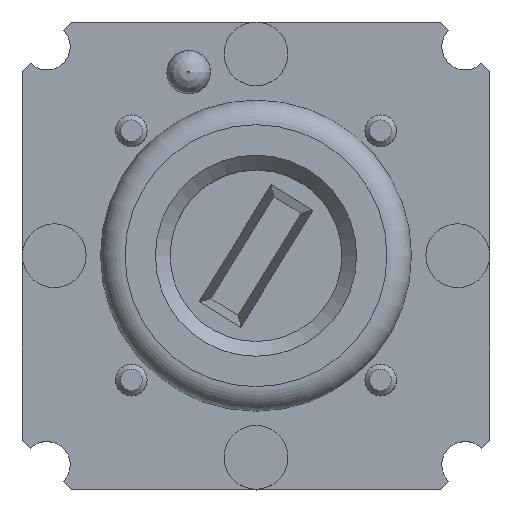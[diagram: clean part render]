
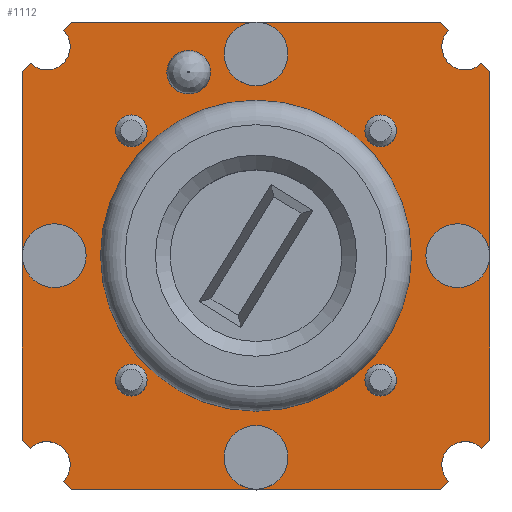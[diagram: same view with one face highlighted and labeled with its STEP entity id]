
A CAD part, top view. The second image highlights one B-rep face of the part: STEP entity #1112.
In plain terms, the highlighted planar face has unit normal (0, 0, 1).
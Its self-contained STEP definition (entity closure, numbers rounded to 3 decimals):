
#178=CIRCLE($,#1178,3.17);
#189=CIRCLE($,#1199,0.32);
#192=CIRCLE($,#1205,0.32);
#195=CIRCLE($,#1211,0.32);
#198=CIRCLE($,#1217,0.32);
#201=CIRCLE($,#1222,0.445);
#203=CIRCLE($,#1226,0.475);
#204=CIRCLE($,#1228,0.475);
#206=CIRCLE($,#1231,0.475);
#208=CIRCLE($,#1238,0.65);
#209=CIRCLE($,#1239,0.65);
#210=CIRCLE($,#1240,0.65);
#211=CIRCLE($,#1241,0.475);
#212=CIRCLE($,#1242,0.65);
#257=FACE_BOUND($,#361,.T.);
#258=FACE_BOUND($,#362,.T.);
#259=FACE_BOUND($,#363,.T.);
#260=FACE_BOUND($,#364,.T.);
#261=FACE_BOUND($,#365,.T.);
#262=FACE_BOUND($,#366,.T.);
#263=FACE_BOUND($,#367,.T.);
#361=EDGE_LOOP($,(#907));
#362=EDGE_LOOP($,(#908));
#363=EDGE_LOOP($,(#909));
#364=EDGE_LOOP($,(#910));
#365=EDGE_LOOP($,(#911));
#366=EDGE_LOOP($,(#912));
#367=EDGE_LOOP($,(#913,#914,#915,#916,#917,#918,#919,#920,#921,#922,#923,
#924,#925,#926,#927,#928,#929,#930,#931,#932,#933,#934,#935,#936));
#430=LINE($,#1830,#498);
#431=LINE($,#1833,#499);
#434=LINE($,#1839,#502);
#437=LINE($,#1845,#505);
#440=LINE($,#1851,#508);
#441=LINE($,#1853,#509);
#442=LINE($,#1855,#510);
#443=LINE($,#1857,#511);
#444=LINE($,#1859,#512);
#445=LINE($,#1861,#513);
#446=LINE($,#1863,#514);
#447=LINE($,#1866,#515);
#448=LINE($,#1868,#516);
#449=LINE($,#1872,#517);
#450=LINE($,#1874,#518);
#451=LINE($,#1876,#519);
#498=VECTOR($,#1494,0.232);
#499=VECTOR($,#1497,0.232);
#502=VECTOR($,#1502,0.232);
#505=VECTOR($,#1507,0.232);
#508=VECTOR($,#1512,3.763);
#509=VECTOR($,#1515,3.763);
#510=VECTOR($,#1516,0.232);
#511=VECTOR($,#1517,3.763);
#512=VECTOR($,#1520,3.763);
#513=VECTOR($,#1521,0.232);
#514=VECTOR($,#1522,3.763);
#515=VECTOR($,#1525,3.763);
#516=VECTOR($,#1526,0.232);
#517=VECTOR($,#1529,0.232);
#518=VECTOR($,#1530,3.763);
#519=VECTOR($,#1533,3.763);
#566=VERTEX_POINT($,#1698);
#577=VERTEX_POINT($,#1730);
#580=VERTEX_POINT($,#1739);
#583=VERTEX_POINT($,#1748);
#586=VERTEX_POINT($,#1757);
#589=VERTEX_POINT($,#1795);
#591=VERTEX_POINT($,#1800);
#593=VERTEX_POINT($,#1804);
#594=VERTEX_POINT($,#1808);
#596=VERTEX_POINT($,#1811);
#598=VERTEX_POINT($,#1817);
#600=VERTEX_POINT($,#1820);
#603=VERTEX_POINT($,#1828);
#604=VERTEX_POINT($,#1832);
#606=VERTEX_POINT($,#1838);
#608=VERTEX_POINT($,#1844);
#610=VERTEX_POINT($,#1850);
#611=VERTEX_POINT($,#1854);
#612=VERTEX_POINT($,#1856);
#613=VERTEX_POINT($,#1860);
#614=VERTEX_POINT($,#1862);
#615=VERTEX_POINT($,#1865);
#616=VERTEX_POINT($,#1867);
#617=VERTEX_POINT($,#1869);
#618=VERTEX_POINT($,#1871);
#619=VERTEX_POINT($,#1873);
#672=EDGE_CURVE($,#566,#566,#178,.T.);
#683=EDGE_CURVE($,#577,#577,#189,.T.);
#686=EDGE_CURVE($,#580,#580,#192,.T.);
#689=EDGE_CURVE($,#583,#583,#195,.T.);
#692=EDGE_CURVE($,#586,#586,#198,.T.);
#696=EDGE_CURVE($,#589,#589,#201,.T.);
#700=EDGE_CURVE($,#591,#593,#203,.T.);
#702=EDGE_CURVE($,#596,#594,#204,.T.);
#706=EDGE_CURVE($,#600,#598,#206,.T.);
#711=EDGE_CURVE($,#603,#593,#430,.T.);
#712=EDGE_CURVE($,#591,#604,#431,.T.);
#715=EDGE_CURVE($,#596,#606,#434,.T.);
#718=EDGE_CURVE($,#600,#608,#437,.T.);
#721=EDGE_CURVE($,#610,#603,#440,.T.);
#722=EDGE_CURVE($,#610,#610,#208,.T.);
#723=EDGE_CURVE($,#606,#610,#441,.T.);
#724=EDGE_CURVE($,#611,#594,#442,.T.);
#725=EDGE_CURVE($,#612,#611,#443,.T.);
#726=EDGE_CURVE($,#612,#612,#209,.T.);
#727=EDGE_CURVE($,#608,#612,#444,.T.);
#728=EDGE_CURVE($,#613,#598,#445,.T.);
#729=EDGE_CURVE($,#614,#613,#446,.T.);
#730=EDGE_CURVE($,#614,#614,#210,.T.);
#731=EDGE_CURVE($,#615,#614,#447,.T.);
#732=EDGE_CURVE($,#616,#615,#448,.T.);
#733=EDGE_CURVE($,#616,#617,#211,.T.);
#734=EDGE_CURVE($,#618,#617,#449,.T.);
#735=EDGE_CURVE($,#619,#618,#450,.T.);
#736=EDGE_CURVE($,#619,#619,#212,.T.);
#737=EDGE_CURVE($,#604,#619,#451,.T.);
#907=ORIENTED_EDGE($,*,*,#672,.T.);
#908=ORIENTED_EDGE($,*,*,#696,.T.);
#909=ORIENTED_EDGE($,*,*,#689,.T.);
#910=ORIENTED_EDGE($,*,*,#692,.T.);
#911=ORIENTED_EDGE($,*,*,#686,.T.);
#912=ORIENTED_EDGE($,*,*,#683,.T.);
#913=ORIENTED_EDGE($,*,*,#700,.T.);
#914=ORIENTED_EDGE($,*,*,#711,.F.);
#915=ORIENTED_EDGE($,*,*,#721,.F.);
#916=ORIENTED_EDGE($,*,*,#722,.T.);
#917=ORIENTED_EDGE($,*,*,#723,.F.);
#918=ORIENTED_EDGE($,*,*,#715,.F.);
#919=ORIENTED_EDGE($,*,*,#702,.T.);
#920=ORIENTED_EDGE($,*,*,#724,.F.);
#921=ORIENTED_EDGE($,*,*,#725,.F.);
#922=ORIENTED_EDGE($,*,*,#726,.T.);
#923=ORIENTED_EDGE($,*,*,#727,.F.);
#924=ORIENTED_EDGE($,*,*,#718,.F.);
#925=ORIENTED_EDGE($,*,*,#706,.T.);
#926=ORIENTED_EDGE($,*,*,#728,.F.);
#927=ORIENTED_EDGE($,*,*,#729,.F.);
#928=ORIENTED_EDGE($,*,*,#730,.T.);
#929=ORIENTED_EDGE($,*,*,#731,.F.);
#930=ORIENTED_EDGE($,*,*,#732,.F.);
#931=ORIENTED_EDGE($,*,*,#733,.T.);
#932=ORIENTED_EDGE($,*,*,#734,.F.);
#933=ORIENTED_EDGE($,*,*,#735,.F.);
#934=ORIENTED_EDGE($,*,*,#736,.T.);
#935=ORIENTED_EDGE($,*,*,#737,.F.);
#936=ORIENTED_EDGE($,*,*,#712,.F.);
#1043=PLANE($,#1237);
#1112=ADVANCED_FACE($,(#257,#258,#259,#260,#261,#262,#263),#1043,.T.);
#1178=AXIS2_PLACEMENT_3D($,#1699,#1374,#1375);
#1199=AXIS2_PLACEMENT_3D($,#1731,#1416,#1417);
#1205=AXIS2_PLACEMENT_3D($,#1740,#1428,#1429);
#1211=AXIS2_PLACEMENT_3D($,#1749,#1440,#1441);
#1217=AXIS2_PLACEMENT_3D($,#1758,#1452,#1453);
#1222=AXIS2_PLACEMENT_3D($,#1796,#1462,#1463);
#1226=AXIS2_PLACEMENT_3D($,#1806,#1472,#1473);
#1228=AXIS2_PLACEMENT_3D($,#1812,#1477,#1478);
#1231=AXIS2_PLACEMENT_3D($,#1821,#1485,#1486);
#1237=AXIS2_PLACEMENT_3D($,#1849,#1510,#1511);
#1238=AXIS2_PLACEMENT_3D($,#1852,#1513,#1514);
#1239=AXIS2_PLACEMENT_3D($,#1858,#1518,#1519);
#1240=AXIS2_PLACEMENT_3D($,#1864,#1523,#1524);
#1241=AXIS2_PLACEMENT_3D($,#1870,#1527,#1528);
#1242=AXIS2_PLACEMENT_3D($,#1875,#1531,#1532);
#1374=DIRECTION('center_axis',(0.,0.,-1.));
#1375=DIRECTION('ref_axis',(1.,0.,0.));
#1416=DIRECTION('center_axis',(0.,0.,-1.));
#1417=DIRECTION('ref_axis',(-1.,0.,0.));
#1428=DIRECTION('center_axis',(0.,0.,-1.));
#1429=DIRECTION('ref_axis',(-1.,0.,0.));
#1440=DIRECTION('center_axis',(0.,0.,-1.));
#1441=DIRECTION('ref_axis',(-1.,0.,0.));
#1452=DIRECTION('center_axis',(0.,0.,-1.));
#1453=DIRECTION('ref_axis',(-1.,0.,0.));
#1462=DIRECTION('center_axis',(0.,0.,-1.));
#1463=DIRECTION('ref_axis',(-1.,0.,0.));
#1472=DIRECTION('center_axis',(0.,0.,-1.));
#1473=DIRECTION('ref_axis',(-1.,0.,0.));
#1477=DIRECTION('center_axis',(0.,0.,-1.));
#1478=DIRECTION('ref_axis',(-1.,0.,0.));
#1485=DIRECTION('center_axis',(0.,0.,-1.));
#1486=DIRECTION('ref_axis',(-1.,0.,0.));
#1494=DIRECTION($,(-0.707,0.707,0.));
#1497=DIRECTION($,(-0.707,0.707,0.));
#1502=DIRECTION($,(-0.707,-0.707,0.));
#1507=DIRECTION($,(0.707,-0.707,0.));
#1510=DIRECTION('center_axis',(0.,0.,1.));
#1511=DIRECTION('ref_axis',(1.,0.,0.));
#1512=DIRECTION($,(-1.,0.,0.));
#1513=DIRECTION('center_axis',(0.,0.,-1.));
#1514=DIRECTION('ref_axis',(-1.,0.,0.));
#1515=DIRECTION($,(-1.,0.,0.));
#1516=DIRECTION($,(-0.707,-0.707,0.));
#1517=DIRECTION($,(0.,-1.,0.));
#1518=DIRECTION('center_axis',(0.,0.,-1.));
#1519=DIRECTION('ref_axis',(-1.,0.,0.));
#1520=DIRECTION($,(0.,-1.,0.));
#1521=DIRECTION($,(0.707,-0.707,0.));
#1522=DIRECTION($,(1.,0.,0.));
#1523=DIRECTION('center_axis',(0.,0.,-1.));
#1524=DIRECTION('ref_axis',(-1.,0.,0.));
#1525=DIRECTION($,(1.,0.,0.));
#1526=DIRECTION($,(0.707,0.707,0.));
#1527=DIRECTION('center_axis',(0.,0.,-1.));
#1528=DIRECTION('ref_axis',(-1.,0.,0.));
#1529=DIRECTION($,(0.707,0.707,0.));
#1530=DIRECTION($,(0.,1.,0.));
#1531=DIRECTION('center_axis',(0.,0.,-1.));
#1532=DIRECTION('ref_axis',(-1.,0.,0.));
#1533=DIRECTION($,(0.,1.,0.));
#1698=CARTESIAN_POINT('',(0.,-3.17,0.));
#1699=CARTESIAN_POINT('Origin',(0.,0.,
0.));
#1730=CARTESIAN_POINT('',(-2.22,2.54,0.));
#1731=CARTESIAN_POINT('Origin',(-2.54,2.54,0.));
#1739=CARTESIAN_POINT('',(-2.22,-2.54,0.));
#1740=CARTESIAN_POINT('Origin',(-2.54,-2.54,0.));
#1748=CARTESIAN_POINT('',(2.86,2.54,0.));
#1749=CARTESIAN_POINT('Origin',(2.54,2.54,0.));
#1757=CARTESIAN_POINT('',(2.86,-2.54,0.));
#1758=CARTESIAN_POINT('Origin',(2.54,-2.54,0.));
#1795=CARTESIAN_POINT('',(-0.928,3.741,0.));
#1796=CARTESIAN_POINT('Origin',(-1.373,3.741,0.));
#1800=CARTESIAN_POINT('',(-4.598,-3.927,0.));
#1804=CARTESIAN_POINT('',(-3.927,-4.598,0.));
#1806=CARTESIAN_POINT('Origin',(-4.263,-4.263,0.));
#1808=CARTESIAN_POINT('',(4.598,-3.927,0.));
#1811=CARTESIAN_POINT('',(3.927,-4.598,0.));
#1812=CARTESIAN_POINT('Origin',(4.263,-4.263,0.));
#1817=CARTESIAN_POINT('',(3.927,4.598,0.));
#1820=CARTESIAN_POINT('',(4.598,3.927,0.));
#1821=CARTESIAN_POINT('Origin',(4.263,4.263,0.));
#1828=CARTESIAN_POINT('',(-3.763,-4.763,0.));
#1830=CARTESIAN_POINT($,(-3.763,-4.763,0.));
#1832=CARTESIAN_POINT('',(-4.763,-3.763,0.));
#1833=CARTESIAN_POINT($,(-3.763,-4.763,0.));
#1838=CARTESIAN_POINT('',(3.763,-4.763,0.));
#1839=CARTESIAN_POINT($,(4.763,-3.763,0.));
#1844=CARTESIAN_POINT('',(4.763,3.763,0.));
#1845=CARTESIAN_POINT($,(3.763,4.763,0.));
#1849=CARTESIAN_POINT('Origin',(0.,0.,
0.));
#1850=CARTESIAN_POINT('',(0.,-4.763,0.));
#1851=CARTESIAN_POINT($,(3.763,-4.763,0.));
#1852=CARTESIAN_POINT('Origin',(0.,-4.113,0.));
#1853=CARTESIAN_POINT($,(3.763,-4.763,0.));
#1854=CARTESIAN_POINT('',(4.763,-3.763,0.));
#1855=CARTESIAN_POINT($,(4.763,-3.763,0.));
#1856=CARTESIAN_POINT('',(4.763,0.,0.));
#1857=CARTESIAN_POINT($,(4.763,3.763,0.));
#1858=CARTESIAN_POINT('Origin',(4.113,0.,0.));
#1859=CARTESIAN_POINT($,(4.763,3.763,0.));
#1860=CARTESIAN_POINT('',(3.763,4.763,0.));
#1861=CARTESIAN_POINT($,(3.763,4.763,0.));
#1862=CARTESIAN_POINT('',(0.,4.763,0.));
#1863=CARTESIAN_POINT($,(-3.763,4.763,0.));
#1864=CARTESIAN_POINT('Origin',(0.,4.113,0.));
#1865=CARTESIAN_POINT('',(-3.763,4.763,0.));
#1866=CARTESIAN_POINT($,(-3.763,4.763,0.));
#1867=CARTESIAN_POINT('',(-3.927,4.598,0.));
#1868=CARTESIAN_POINT($,(-4.763,3.763,0.));
#1869=CARTESIAN_POINT('',(-4.598,3.927,0.));
#1870=CARTESIAN_POINT('Origin',(-4.263,4.263,0.));
#1871=CARTESIAN_POINT('',(-4.763,3.763,0.));
#1872=CARTESIAN_POINT($,(-4.763,3.763,0.));
#1873=CARTESIAN_POINT('',(-4.763,0.,0.));
#1874=CARTESIAN_POINT($,(-4.763,-3.763,0.));
#1875=CARTESIAN_POINT('Origin',(-4.113,0.,0.));
#1876=CARTESIAN_POINT($,(-4.763,-3.763,0.));
